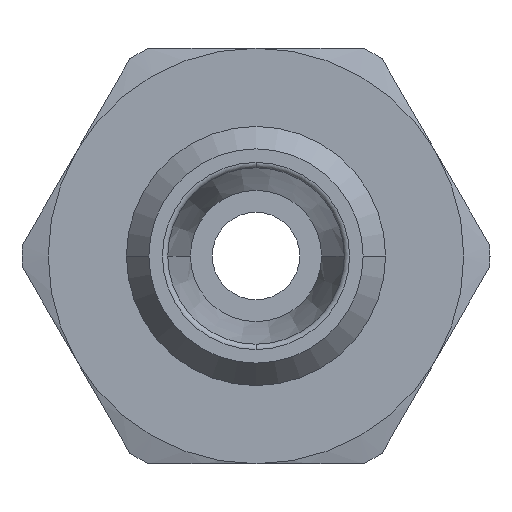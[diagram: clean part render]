
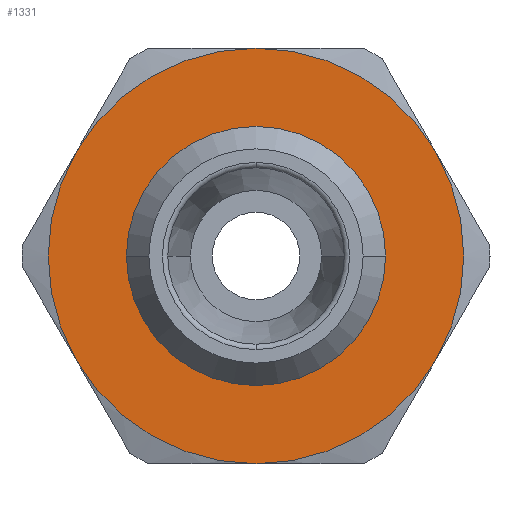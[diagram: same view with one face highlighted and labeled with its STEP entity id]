
A CAD part, left-side view. The second image highlights one B-rep face of the part: STEP entity #1331.
In plain terms, the highlighted planar face has unit normal (-1, 0, 0) as drawn and (0, 0, 1) by its records, which use the part's own axes.
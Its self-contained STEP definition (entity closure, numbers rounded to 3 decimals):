
#359=CARTESIAN_POINT('',(-5.8,0.,7.45));
#360=VERTEX_POINT('',#359);
#386=CARTESIAN_POINT('',(5.8,0.,7.45));
#387=VERTEX_POINT('',#386);
#395=CARTESIAN_POINT('',(0.,0.,7.45));
#396=DIRECTION('',(0.0,0.0,1.0));
#397=DIRECTION('',(-1.0,0.0,0.0));
#398=AXIS2_PLACEMENT_3D('',#395,#396,#397);
#399=CIRCLE('',#398,5.8);
#400=EDGE_CURVE('',#387,#360,#399,.T.);
#1211=CARTESIAN_POINT('',(0.,-5.8,7.45));
#1212=VERTEX_POINT('',#1211);
#1213=CARTESIAN_POINT('',(0.,0.,7.45));
#1214=DIRECTION('',(0.0,0.0,1.0));
#1215=DIRECTION('',(-1.0,0.0,0.0));
#1216=AXIS2_PLACEMENT_3D('',#1213,#1214,#1215);
#1217=CIRCLE('',#1216,5.8);
#1218=EDGE_CURVE('',#360,#1212,#1217,.T.);
#1220=CARTESIAN_POINT('',(0.,0.,7.45));
#1221=DIRECTION('',(0.0,0.0,1.0));
#1222=DIRECTION('',(-1.0,0.0,0.0));
#1223=AXIS2_PLACEMENT_3D('',#1220,#1221,#1222);
#1224=CIRCLE('',#1223,5.8);
#1225=EDGE_CURVE('',#1212,#387,#1224,.T.);
#1265=CARTESIAN_POINT('',(0.,0.,7.45));
#1266=DIRECTION('',(0.0,0.0,1.0));
#1267=DIRECTION('',(1.0,0.0,0.0));
#1268=AXIS2_PLACEMENT_3D('',#1265,#1266,#1267);
#1269=PLANE('',#1268);
#1270=CARTESIAN_POINT('',(4.75,-8.227,7.45));
#1271=VERTEX_POINT('',#1270);
#1272=CARTESIAN_POINT('',(9.5,0.0,7.45));
#1273=VERTEX_POINT('',#1272);
#1274=CARTESIAN_POINT('',(0.,0.0,7.45));
#1275=DIRECTION('',(0.0,0.0,1.0));
#1276=DIRECTION('',(1.0,0.0,0.0));
#1277=AXIS2_PLACEMENT_3D('',#1274,#1275,#1276);
#1278=CIRCLE('',#1277,9.5);
#1279=EDGE_CURVE('',#1271,#1273,#1278,.T.);
#1280=ORIENTED_EDGE('',*,*,#1279,.T.);
#1281=CARTESIAN_POINT('',(4.75,8.227,7.45));
#1282=VERTEX_POINT('',#1281);
#1283=CARTESIAN_POINT('',(0.,0.0,7.45));
#1284=DIRECTION('',(0.0,0.0,1.0));
#1285=DIRECTION('',(1.0,0.0,0.0));
#1286=AXIS2_PLACEMENT_3D('',#1283,#1284,#1285);
#1287=CIRCLE('',#1286,9.5);
#1288=EDGE_CURVE('',#1273,#1282,#1287,.T.);
#1289=ORIENTED_EDGE('',*,*,#1288,.T.);
#1290=CARTESIAN_POINT('',(-4.75,8.227,7.45));
#1291=VERTEX_POINT('',#1290);
#1292=CARTESIAN_POINT('',(0.,0.0,7.45));
#1293=DIRECTION('',(0.0,0.0,1.0));
#1294=DIRECTION('',(1.0,0.0,0.0));
#1295=AXIS2_PLACEMENT_3D('',#1292,#1293,#1294);
#1296=CIRCLE('',#1295,9.5);
#1297=EDGE_CURVE('',#1282,#1291,#1296,.T.);
#1298=ORIENTED_EDGE('',*,*,#1297,.T.);
#1299=CARTESIAN_POINT('',(-9.5,0.,7.45));
#1300=VERTEX_POINT('',#1299);
#1301=CARTESIAN_POINT('',(0.,0.0,7.45));
#1302=DIRECTION('',(0.0,0.0,1.0));
#1303=DIRECTION('',(1.0,0.0,0.0));
#1304=AXIS2_PLACEMENT_3D('',#1301,#1302,#1303);
#1305=CIRCLE('',#1304,9.5);
#1306=EDGE_CURVE('',#1291,#1300,#1305,.T.);
#1307=ORIENTED_EDGE('',*,*,#1306,.T.);
#1308=CARTESIAN_POINT('',(-4.75,-8.227,7.45));
#1309=VERTEX_POINT('',#1308);
#1310=CARTESIAN_POINT('',(0.,0.0,7.45));
#1311=DIRECTION('',(0.0,0.0,1.0));
#1312=DIRECTION('',(1.0,0.0,0.0));
#1313=AXIS2_PLACEMENT_3D('',#1310,#1311,#1312);
#1314=CIRCLE('',#1313,9.5);
#1315=EDGE_CURVE('',#1300,#1309,#1314,.T.);
#1316=ORIENTED_EDGE('',*,*,#1315,.T.);
#1317=CARTESIAN_POINT('',(0.,0.0,7.45));
#1318=DIRECTION('',(0.0,0.0,1.0));
#1319=DIRECTION('',(1.0,0.0,0.0));
#1320=AXIS2_PLACEMENT_3D('',#1317,#1318,#1319);
#1321=CIRCLE('',#1320,9.5);
#1322=EDGE_CURVE('',#1309,#1271,#1321,.T.);
#1323=ORIENTED_EDGE('',*,*,#1322,.T.);
#1324=EDGE_LOOP('',(#1280,#1289,#1298,#1307,#1316,#1323));
#1325=FACE_OUTER_BOUND('',#1324,.T.);
#1326=ORIENTED_EDGE('',*,*,#1225,.F.);
#1327=ORIENTED_EDGE('',*,*,#1218,.F.);
#1328=ORIENTED_EDGE('',*,*,#400,.F.);
#1329=EDGE_LOOP('',(#1326,#1327,#1328));
#1330=FACE_BOUND('',#1329,.T.);
#1331=ADVANCED_FACE('',(#1325,#1330),#1269,.T.);
